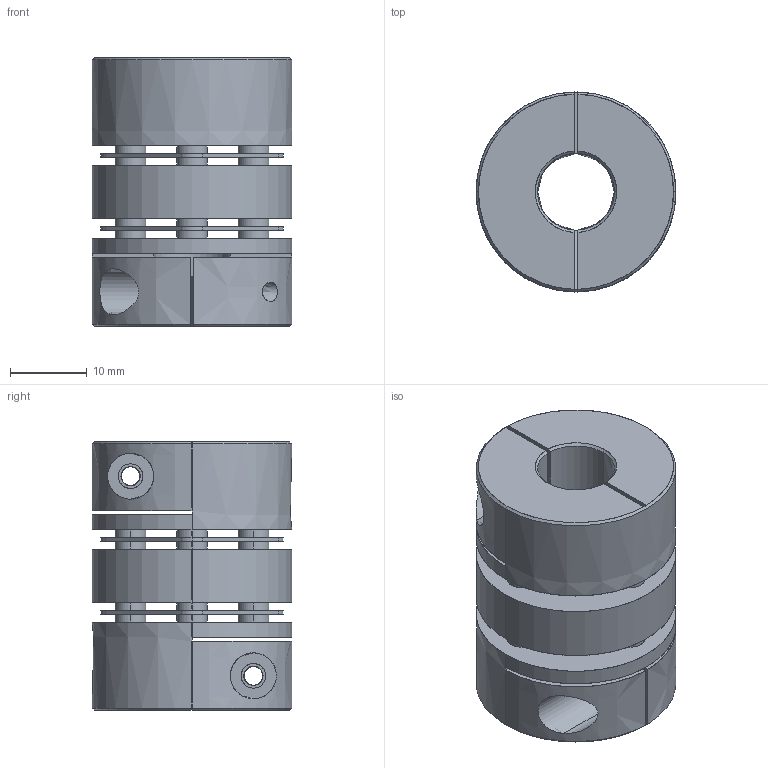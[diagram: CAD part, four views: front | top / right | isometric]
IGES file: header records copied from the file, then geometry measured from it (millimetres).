
Start section: SolidWorks IGES file using analytic representation for surfaces
Bounding box: 26 x 26 x 35 mm (x, y, z)
Surface area: 8547.1 mm2 (no closed solid volume)
Topology: 0 solids, 0 shells, 132 faces, 2792 edges, 2792 vertices
Faces by surface type: revolution 90, bspline 42
